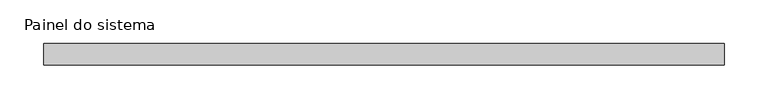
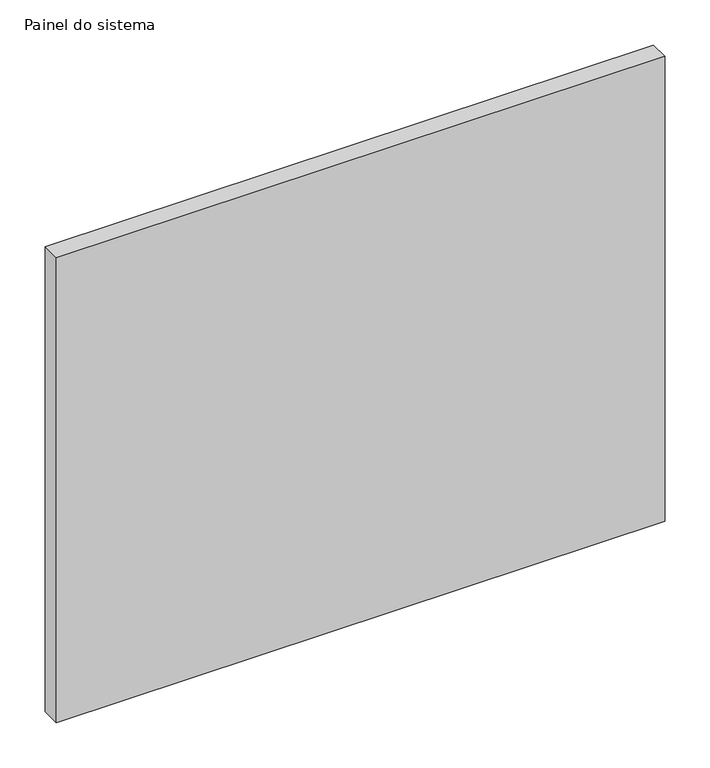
"""IFC4 building model written with IfcOpenShell, lengths in millimetres: plate geometry, Painel do sistema : Envidraçado."""

from ifc_helpers import new_model, si_unit, origin, origin_with_axes, place, context, project, spatial, polyline, outline, extrude, source, transform, mapped, element, save


def painel_do_sistema_c130f8c6(model_context):
    return source(origin(), model_context, "Body", "SweptSolid", [
        extrude(outline(polyline([(390.0, 24.5), (-390.0, 24.5), (-390.0, 49.5), (390.0, 49.5), (390.0, 24.5)])), origin_with_axes(), (0.0, 0.0, 1.0), 630.0),
    ])


if __name__ == "__main__":
    model = new_model("IFC4")
    model_context = context("Model", 3, world=origin())
    ifc_project = project(units=[si_unit("LENGTHUNIT", "METRE", prefix="MILLI")], contexts=[model_context])
    site = spatial("IfcSite", under=ifc_project)
    building = spatial("IfcBuilding", under=site)
    placement = place(None, origin())
    painel_do_sistema_shape = painel_do_sistema_c130f8c6(model_context)
    element("IfcPlate", 1, ObjectType="Painel do sistema : Envidraçado", at=placement, inside=building, context=model_context, shape_type="MappedRepresentation", body=[
        mapped(painel_do_sistema_shape, transform((0.0, 0.0, 0.0), x_axis=(1.0, 0.0, 0.0), y_axis=(0.0, 1.0, 0.0), z_axis=(0.0, 0.0, 1.0))),
    ])
    save(model, "model.ifc")
